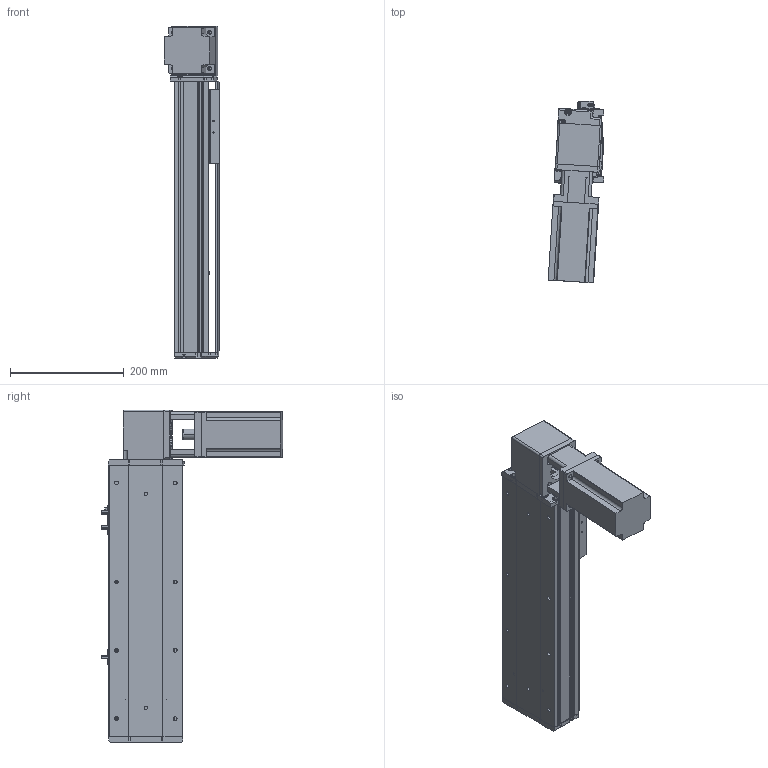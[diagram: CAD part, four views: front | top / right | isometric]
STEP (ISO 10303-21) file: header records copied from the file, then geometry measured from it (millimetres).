
FILE_DESCRIPTION (( 'STEP AP214' ), '1' );
FILE_NAME ('KSD130B-S250-MRT-CM.STEP', '2019-11-16T02:45:31', ( '微软用户' ), ( '微软中国' ), 'SwSTEP 2.0', 'SolidWorks 2014', '' );
FILE_SCHEMA (( 'AUTOMOTIVE_DESIGN' ));
Length unit declared in the file: millimetre
Products named in the file (12): 130宽安装板同步带带电机座750W; 130宽盖板半封闭同步带-250行程; 130宽马达安装板同步带左-改; 130宽马达安装板同步带半封闭; 130宽同步带安装座半封闭; 130宽端盖同步带半封闭; 130宽底板半封闭同步带-250行程; KSD130B-S250-MRT-CM; 台达ECMA－C20807AS伺服电机; 130宽马达安装板1-带电机座750W（1）; 覜茼え100遵圉猾敕; U倰嫖萇EEㄜSX672
Assembly tree (13 placements, depth 2):
  KSD130B-S250-MRT-CM
    130宽底板半封闭同步带-250行程
    130宽端盖同步带半封闭
    130宽同步带安装座半封闭
    130宽马达安装板同步带半封闭
    130宽马达安装板同步带左-改
    130宽盖板半封闭同步带-250行程
    130宽安装板同步带带电机座750W
    U倰嫖萇EEㄜSX672  x3
    覜茼え100遵圉猾敕
    130宽马达安装板1-带电机座750W（1）
    台达ECMA－C20807AS伺服电机
Bounding box: 97.64 x 319.44 x 583 mm (x, y, z)
Volume: 2940903.7 mm3; surface area: 691964.7 mm2
Topology: 14 solids, 14 shells, 1335 faces, 3712 edges, 2391 vertices
Faces by surface type: cylinder 621, plane 581, cone 133
Entity records: 41859 total; most frequent: CARTESIAN_POINT 7301, DIRECTION 6462, ORIENTED_EDGE 6156, EDGE_CURVE 3078, AXIS2_PLACEMENT_3D 2344, VERTEX_POINT 2015, VECTOR 1774, LINE 1774
